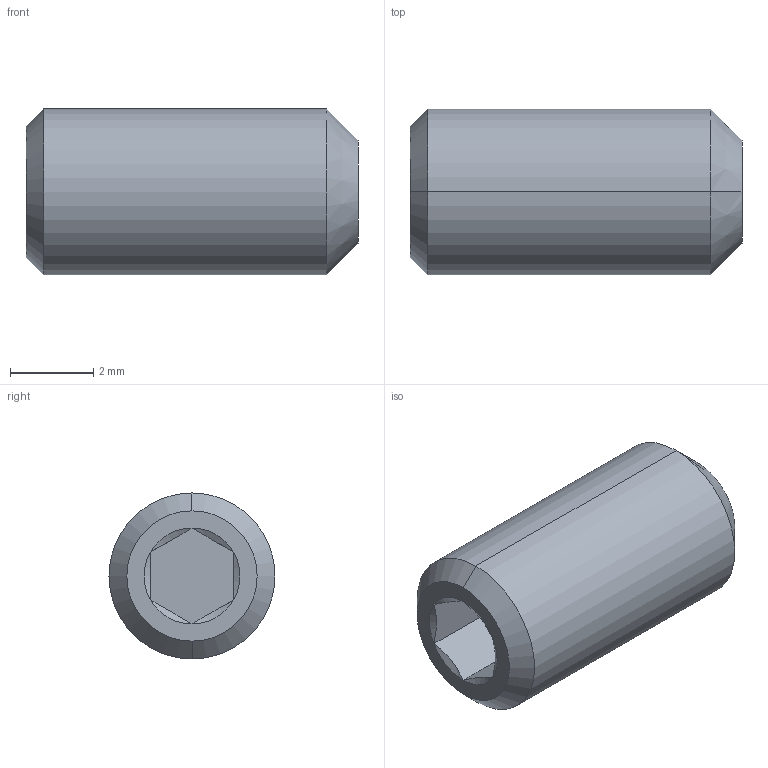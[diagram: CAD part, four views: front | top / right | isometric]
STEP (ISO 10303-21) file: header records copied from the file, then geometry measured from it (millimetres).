
FILE_DESCRIPTION (( 'STEP AP203' ), '1' );
FILE_NAME ('2040-00000005.STEP', '2024-05-15T06:59:11', ( '' ), ( '' ), 'SwSTEP 2.0', 'SolidWorks 2019', '' );
FILE_SCHEMA (( 'CONFIG_CONTROL_DESIGN' ));
Length unit declared in the file: millimetre
Products named in the file (1): 2040-00000005
Bounding box: 8 x 4 x 4 mm (x, y, z)
Volume: 87.7 mm3; surface area: 133 mm2
Topology: 1 solids, 1 shells, 21 faces, 38 edges, 20 vertices
Faces by surface type: cone 10, plane 9, cylinder 2
Entity records: 597 total; most frequent: CARTESIAN_POINT 114, DIRECTION 90, ORIENTED_EDGE 76, EDGE_CURVE 38, AXIS2_PLACEMENT_3D 36, EDGE_LOOP 22, FACE_OUTER_BOUND 21, ADVANCED_FACE 21
